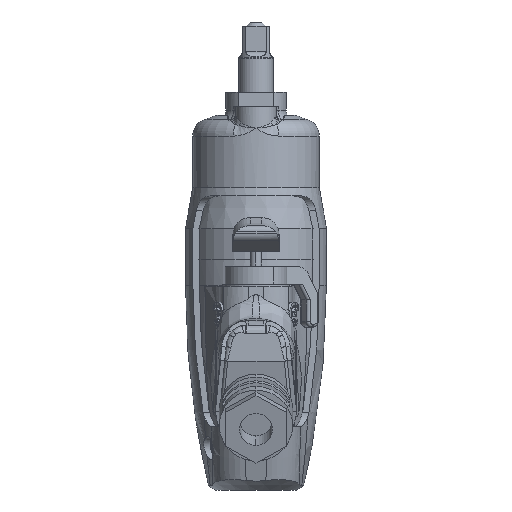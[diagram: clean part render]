
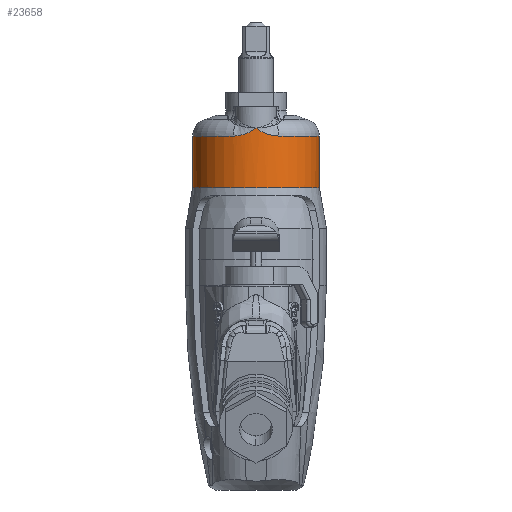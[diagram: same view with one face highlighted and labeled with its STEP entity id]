
A CAD part, front view. The second image highlights one B-rep face of the part: STEP entity #23658.
In plain terms, the highlighted cylindrical face has radius 22 mm (diameter 44 mm), a partial arc.
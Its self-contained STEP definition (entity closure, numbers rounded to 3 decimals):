
#1319 = B_SPLINE_CURVE_WITH_KNOTS ( 'NONE', 3,
 ( #31413, #36017, #49874, #22350, #54526, #27000, #59181, #31622, #4001, #36220, #8639, #40843 ),
 .UNSPECIFIED., .F., .F.,
 ( 4, 2, 2, 2, 2, 4 ),
 ( 0., 0.002, 0.003, 0.004, 0.007, 0.009 ),
 .UNSPECIFIED. ) ;
#1395 = CARTESIAN_POINT ( 'NONE',  ( 5.135, -21.404, -33.061 ) ) ;
#1623 = VERTEX_POINT ( 'NONE', #5745 ) ;
#1925 = CARTESIAN_POINT ( 'NONE',  ( -22., 0., -51.247 ) ) ;
#3910 = DIRECTION ( 'NONE',  ( 0., 0., 1. ) ) ;
#4001 = CARTESIAN_POINT ( 'NONE',  ( -5.138, -21.403, -33.062 ) ) ;
#4089 = ORIENTED_EDGE ( 'NONE', *, *, #52013, .T. ) ;
#4445 = CARTESIAN_POINT ( 'NONE',  ( -22., 0., -33.359 ) ) ;
#5526 = DIRECTION ( 'NONE',  ( 1., 0., 0. ) ) ;
#5745 = CARTESIAN_POINT ( 'NONE',  ( 7.875, -20.542, -33.359 ) ) ;
#5873 = LINE ( 'NONE', #10925, #31829 ) ;
#6027 = CARTESIAN_POINT ( 'NONE',  ( 3.102, -21.791, -32.405 ) ) ;
#6406 = CARTESIAN_POINT ( 'NONE',  ( -7.875, -20.542, -33.359 ) ) ;
#7372 = B_SPLINE_CURVE_WITH_KNOTS ( 'NONE', 3,
 ( #51899, #10459, #29017, #1395, #33608, #6027, #38214, #10661, #42842, #15318 ),
 .UNSPECIFIED., .F., .F.,
 ( 4, 2, 2, 2, 4 ),
 ( 0., 0.002, 0.004, 0.007, 0.009 ),
 .UNSPECIFIED. ) ;
#7821 = CIRCLE ( 'NONE', #22537, 22. ) ;
#8532 = CARTESIAN_POINT ( 'NONE',  ( 22., 0., -18.1 ) ) ;
#8639 = CARTESIAN_POINT ( 'NONE',  ( -7.196, -20.802, -33.359 ) ) ;
#9897 = EDGE_CURVE ( 'NONE', #54808, #57729, #5873, .T. ) ;
#10459 = CARTESIAN_POINT ( 'NONE',  ( 7.197, -20.802, -33.359 ) ) ;
#10661 = CARTESIAN_POINT ( 'NONE',  ( 1.183, -21.977, -31.402 ) ) ;
#10925 = CARTESIAN_POINT ( 'NONE',  ( -22., 0., -18.1 ) ) ;
#11235 = EDGE_CURVE ( 'NONE', #1623, #50742, #7372, .T. ) ;
#11579 = EDGE_CURVE ( 'NONE', #13487, #43928, #15871, .T. ) ;
#13487 = VERTEX_POINT ( 'NONE', #26769 ) ;
#13957 = FACE_OUTER_BOUND ( 'NONE', #35525, .T. ) ;
#14459 = VECTOR ( 'NONE', #3910, 1000. ) ;
#15318 = CARTESIAN_POINT ( 'NONE',  ( 0., -22., -30.558 ) ) ;
#15871 = LINE ( 'NONE', #8532, #14459 ) ;
#19745 = CIRCLE ( 'NONE', #49692, 22. ) ;
#20406 = AXIS2_PLACEMENT_3D ( 'NONE', #24045, #56231, #28668 ) ;
#20420 = CIRCLE ( 'NONE', #20406, 22. ) ;
#20426 = CYLINDRICAL_SURFACE ( 'NONE', #54741, 22. ) ;
#20504 = ORIENTED_EDGE ( 'NONE', *, *, #23302, .T. ) ;
#22350 = CARTESIAN_POINT ( 'NONE',  ( -2.132, -21.899, -31.932 ) ) ;
#22509 = DIRECTION ( 'NONE',  ( 0., 0., -1. ) ) ;
#22537 = AXIS2_PLACEMENT_3D ( 'NONE', #50026, #22509, #54672 ) ;
#22763 = ORIENTED_EDGE ( 'NONE', *, *, #35609, .T. ) ;
#23302 = EDGE_CURVE ( 'NONE', #34616, #57729, #19745, .T. ) ;
#23658 = ADVANCED_FACE ( 'NONE', ( #13957 ), #20426, .T. ) ;
#24045 = CARTESIAN_POINT ( 'NONE',  ( 0., 0., -51.247 ) ) ;
#26337 = CARTESIAN_POINT ( 'NONE',  ( 0., 0., -33.359 ) ) ;
#26769 = CARTESIAN_POINT ( 'NONE',  ( 22., 0., -51.247 ) ) ;
#27000 = CARTESIAN_POINT ( 'NONE',  ( -3.109, -21.782, -32.391 ) ) ;
#28517 = CARTESIAN_POINT ( 'NONE',  ( 0., 0., -18.1 ) ) ;
#28668 = DIRECTION ( 'NONE',  ( -1., 0., 0. ) ) ;
#29017 = CARTESIAN_POINT ( 'NONE',  ( 6.505, -21.028, -33.299 ) ) ;
#30934 = DIRECTION ( 'NONE',  ( 1., 0., 0. ) ) ;
#31413 = CARTESIAN_POINT ( 'NONE',  ( 0., -22., -30.558 ) ) ;
#31561 = CARTESIAN_POINT ( 'NONE',  ( 0., -22., -30.558 ) ) ;
#31622 = CARTESIAN_POINT ( 'NONE',  ( -4.446, -21.557, -32.882 ) ) ;
#31829 = VECTOR ( 'NONE', #48508, 1000. ) ;
#33608 = CARTESIAN_POINT ( 'NONE',  ( 4.451, -21.556, -32.884 ) ) ;
#34616 = VERTEX_POINT ( 'NONE', #6406 ) ;
#35525 = EDGE_LOOP ( 'NONE', ( #37288, #22763, #54762, #46858, #44880, #4089, #20504 ) ) ;
#35609 = EDGE_CURVE ( 'NONE', #54808, #13487, #20420, .T. ) ;
#36017 = CARTESIAN_POINT ( 'NONE',  ( -0.579, -22., -30.996 ) ) ;
#36220 = CARTESIAN_POINT ( 'NONE',  ( -6.51, -21.027, -33.299 ) ) ;
#37288 = ORIENTED_EDGE ( 'NONE', *, *, #9897, .F. ) ;
#37731 = DIRECTION ( 'NONE',  ( 0., 0., 1. ) ) ;
#38214 = CARTESIAN_POINT ( 'NONE',  ( 2.447, -21.873, -32.107 ) ) ;
#40843 = CARTESIAN_POINT ( 'NONE',  ( -7.875, -20.542, -33.359 ) ) ;
#42842 = CARTESIAN_POINT ( 'NONE',  ( 0.578, -22., -30.995 ) ) ;
#43928 = VERTEX_POINT ( 'NONE', #49703 ) ;
#44880 = ORIENTED_EDGE ( 'NONE', *, *, #11235, .T. ) ;
#46858 = ORIENTED_EDGE ( 'NONE', *, *, #58190, .T. ) ;
#48508 = DIRECTION ( 'NONE',  ( 0., 0., 1. ) ) ;
#49692 = AXIS2_PLACEMENT_3D ( 'NONE', #26337, #58513, #30934 ) ;
#49703 = CARTESIAN_POINT ( 'NONE',  ( 22., 0., -33.359 ) ) ;
#49874 = CARTESIAN_POINT ( 'NONE',  ( -1.184, -21.977, -31.402 ) ) ;
#50026 = CARTESIAN_POINT ( 'NONE',  ( 0., 0., -33.359 ) ) ;
#50742 = VERTEX_POINT ( 'NONE', #31561 ) ;
#51899 = CARTESIAN_POINT ( 'NONE',  ( 7.875, -20.542, -33.359 ) ) ;
#52013 = EDGE_CURVE ( 'NONE', #50742, #34616, #1319, .T. ) ;
#54526 = CARTESIAN_POINT ( 'NONE',  ( -2.455, -21.865, -32.095 ) ) ;
#54672 = DIRECTION ( 'NONE',  ( 1., 0., 0. ) ) ;
#54741 = AXIS2_PLACEMENT_3D ( 'NONE', #28517, #37731, #5526 ) ;
#54762 = ORIENTED_EDGE ( 'NONE', *, *, #11579, .T. ) ;
#54808 = VERTEX_POINT ( 'NONE', #1925 ) ;
#56231 = DIRECTION ( 'NONE',  ( 0., 0., 1. ) ) ;
#57729 = VERTEX_POINT ( 'NONE', #4445 ) ;
#58190 = EDGE_CURVE ( 'NONE', #43928, #1623, #7821, .T. ) ;
#58513 = DIRECTION ( 'NONE',  ( 0., 0., -1. ) ) ;
#59181 = CARTESIAN_POINT ( 'NONE',  ( -3.44, -21.732, -32.525 ) ) ;
